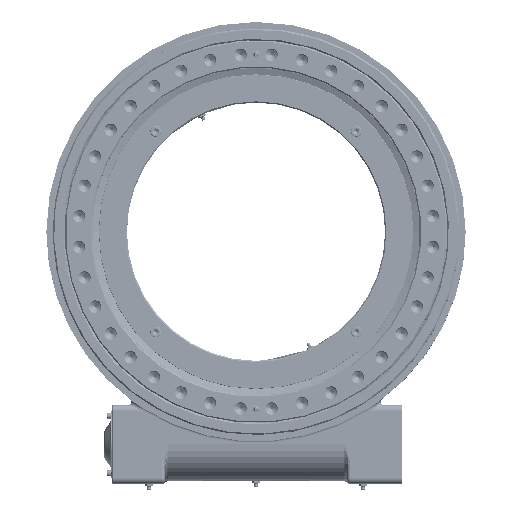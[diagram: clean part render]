
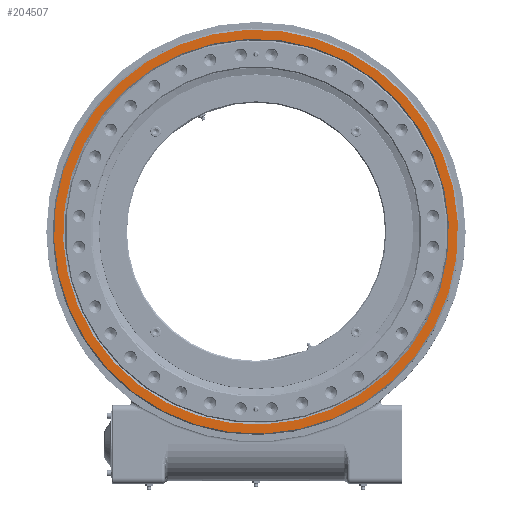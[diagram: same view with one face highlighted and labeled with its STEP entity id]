
A CAD part, top view. The second image highlights one B-rep face of the part: STEP entity #204507.
In plain terms, the highlighted planar face has unit normal (0, 0, 1).
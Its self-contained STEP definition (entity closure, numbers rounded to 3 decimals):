
#3099 = FACE_OUTER_BOUND ( 'NONE', #68454, .T. ) ;
#10937 = VERTEX_POINT ( 'NONE', #110188 ) ;
#18553 = DIRECTION ( 'NONE',  ( 0., 0., 1. ) ) ;
#23295 = DIRECTION ( 'NONE',  ( 0., 0., -1. ) ) ;
#23814 = CARTESIAN_POINT ( 'NONE',  ( 293.284, 121.618, 109. ) ) ;
#29782 = CARTESIAN_POINT ( 'NONE',  ( 0., 0., 109. ) ) ;
#53402 = DIRECTION ( 'NONE',  ( 0., 0., -1. ) ) ;
#68454 = EDGE_LOOP ( 'NONE', ( #126963, #81920 ) ) ;
#69137 = VERTEX_POINT ( 'NONE', #155653 ) ;
#70229 = CARTESIAN_POINT ( 'NONE',  ( 0., 0., 109. ) ) ;
#75749 = CIRCLE ( 'NONE', #93644, 332.5 ) ;
#81920 = ORIENTED_EDGE ( 'NONE', *, *, #215375, .T. ) ;
#87743 = EDGE_LOOP ( 'NONE', ( #115988, #95046 ) ) ;
#93644 = AXIS2_PLACEMENT_3D ( 'NONE', #110481, #129985, #153620 ) ;
#95046 = ORIENTED_EDGE ( 'NONE', *, *, #203162, .T. ) ;
#95093 = CIRCLE ( 'NONE', #250854, 332.5 ) ;
#104055 = CIRCLE ( 'NONE', #259772, 317.5 ) ;
#104750 = AXIS2_PLACEMENT_3D ( 'NONE', #106250, #18553, #173072 ) ;
#106250 = CARTESIAN_POINT ( 'NONE',  ( 0., 0., 109. ) ) ;
#110188 = CARTESIAN_POINT ( 'NONE',  ( -293.284, -121.618, 109. ) ) ;
#110481 = CARTESIAN_POINT ( 'NONE',  ( 0., 0., 109. ) ) ;
#110998 = DIRECTION ( 'NONE',  ( 0.924, 0.383, 0. ) ) ;
#115988 = ORIENTED_EDGE ( 'NONE', *, *, #124981, .T. ) ;
#122826 = VERTEX_POINT ( 'NONE', #230657 ) ;
#124395 = PLANE ( 'NONE',  #104750 ) ;
#124981 = EDGE_CURVE ( 'NONE', #212385, #10937, #104055, .T. ) ;
#126963 = ORIENTED_EDGE ( 'NONE', *, *, #245689, .T. ) ;
#129985 = DIRECTION ( 'NONE',  ( 0., 0., 1. ) ) ;
#135832 = AXIS2_PLACEMENT_3D ( 'NONE', #29782, #53402, #222011 ) ;
#153522 = CIRCLE ( 'NONE', #135832, 317.5 ) ;
#153620 = DIRECTION ( 'NONE',  ( 0.924, 0.383, 0. ) ) ;
#155653 = CARTESIAN_POINT ( 'NONE',  ( -307.14, -127.364, 109. ) ) ;
#157971 = DIRECTION ( 'NONE',  ( 0.924, 0.383, 0. ) ) ;
#168979 = FACE_BOUND ( 'NONE', #87743, .T. ) ;
#173072 = DIRECTION ( 'NONE',  ( 0.924, 0.383, 0. ) ) ;
#180278 = DIRECTION ( 'NONE',  ( 0., 0., 1. ) ) ;
#203162 = EDGE_CURVE ( 'NONE', #10937, #212385, #153522, .T. ) ;
#204507 = ADVANCED_FACE ( 'NONE', ( #168979, #3099 ), #124395, .T. ) ;
#212385 = VERTEX_POINT ( 'NONE', #23814 ) ;
#214160 = CARTESIAN_POINT ( 'NONE',  ( 0., 0., 109. ) ) ;
#215375 = EDGE_CURVE ( 'NONE', #122826, #69137, #95093, .T. ) ;
#222011 = DIRECTION ( 'NONE',  ( 0.924, 0.383, 0. ) ) ;
#230657 = CARTESIAN_POINT ( 'NONE',  ( 307.14, 127.364, 109. ) ) ;
#245689 = EDGE_CURVE ( 'NONE', #69137, #122826, #75749, .T. ) ;
#250854 = AXIS2_PLACEMENT_3D ( 'NONE', #70229, #180278, #157971 ) ;
#259772 = AXIS2_PLACEMENT_3D ( 'NONE', #214160, #23295, #110998 ) ;
